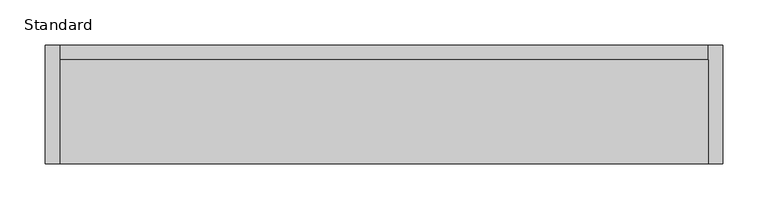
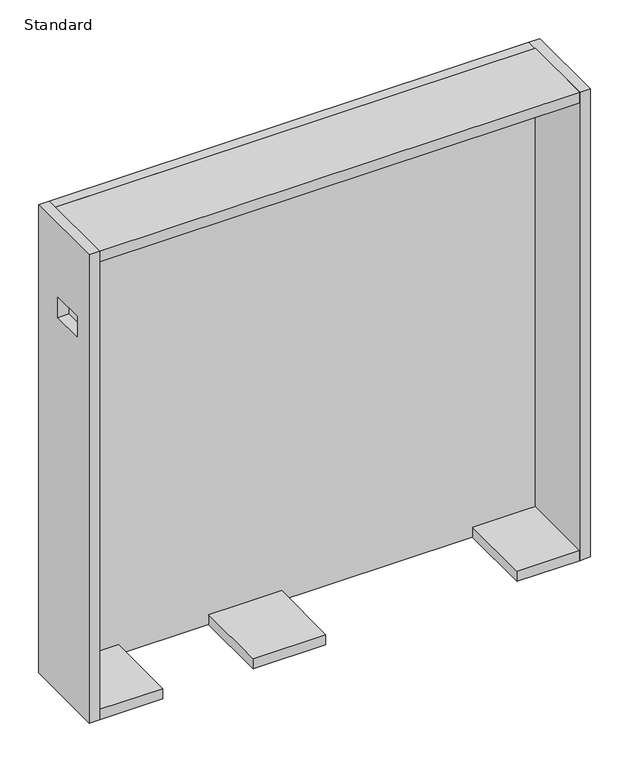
"""IFC4 building model written with IfcOpenShell, lengths in millimetres: furniture geometry, X_Partition-Compact Laminate-Duracube-Mirror Cabinet : Standard."""

from ifc_helpers import new_model, si_unit, point, frame, frame_2d, origin, origin_with_axes, place, context, project, spatial, polyline, circle_curve, ellipse_curve, trimmed, segment, composite_curve, outline, extrude, source, transform, mapped, element, save
from ifc_brep_helpers import plane_surface, revolved_surface, advanced_brep


def standard_5f91ae4e(model_context):
    return source(origin(), model_context, "Body", "SolidModel", [
        extrude(outline(composite_curve([segment(trimmed(circle_curve(frame_2d((369.7003264, -748.5)), 11.0), [point((358.7003264, -748.5))], [point((380.7003264, -748.5))], False, "CARTESIAN"), True, "CONTINUOUS"), segment(trimmed(circle_curve(frame_2d((369.7003264, -748.5)), 11.0), [point((380.7003264, -748.5))], [point((358.7003264, -748.5))], False, "CARTESIAN"), True, "CONTINUOUS")], self_intersect=False)), frame((0.0, 0.0, 8.0), z_axis=(0.0, 0.0, 1.0), x_axis=(1.0, 0.0, 0.0)), (0.0, 0.0, 1.0), 2.0),
        advanced_brep(
        [(369.7003264, -739.5, 7.0), (369.7003264, -757.5, 7.0), (369.7003264, -759.5, 8.0), (369.7003264, -737.5, 8.0), (369.7003264, -739.5, 8.0), (369.7003264, -757.5, 8.0)],
        [
            (0, 1, circle_curve(frame((369.7003264, -748.5, 7.0), z_axis=(0.0, 0.0, 1.0), x_axis=(0.0, -1.0, 0.0)), 9.0)),
            (1, 2, ellipse_curve(frame((369.7003264, -757.5, 8.0), z_axis=(-1.0, 0.0, 0.0), x_axis=(0.0, -1.0, 0.0)), 2.0, 1.0)),
            (2, 3, circle_curve(frame((369.7003264, -748.5, 8.0), z_axis=(0.0, 0.0, -1.0), x_axis=(0.0, -1.0, 0.0)), 11.0)),
            (3, 0, ellipse_curve(frame((369.7003264, -739.5, 8.0), z_axis=(-1.0, 0.0, 0.0), x_axis=(0.0, 1.0, 0.0)), 2.0, 1.0)),
            (1, 0, circle_curve(frame((369.7003264, -748.5, 7.0), z_axis=(0.0, 0.0, 1.0), x_axis=(0.0, -1.0, 0.0)), 9.0)),
            (3, 2, circle_curve(frame((369.7003264, -748.5, 8.0), z_axis=(0.0, 0.0, -1.0), x_axis=(0.0, -1.0, 0.0)), 11.0)),
            (4, 5, circle_curve(frame((369.7003264, -748.5, 8.0), z_axis=(0.0, 0.0, 1.0), x_axis=(0.0, -1.0, 0.0)), 9.0)),
            (5, 1),
            (0, 4),
            (5, 4, circle_curve(frame((369.7003264, -748.5, 8.0), z_axis=(0.0, 0.0, 1.0), x_axis=(0.0, -1.0, 0.0)), 9.0)),
            (2, 5),
            (4, 3),
        ],
        [
            revolved_surface(trimmed(ellipse_curve(frame((369.7003264, -757.5, 8.0), z_axis=(1.0, 0.0, 0.0), x_axis=(0.0, -1.0, 0.0)), 2.0, 1.0), [point((369.7003264, -759.5, 8.0))], [point((369.7003264, -757.5, 7.0))], True, "CARTESIAN"), (369.7003264, -748.5, 8.0), (0.0, 0.0, -1.0)),
            revolved_surface(polyline([(369.7003264, -757.5, 7.0), (369.7003264, -757.5, 8.0)]), (369.7003264, -748.5, 8.0), (0.0, 0.0, -1.0)),
            plane_surface(frame((369.7003264, -748.5, 8.0), z_axis=(0.0, 0.0, 1.0), x_axis=(0.0, -1.0, 0.0))),
        ],
        [
            (0, [[1, 2, 3, 4]]),
            (0, [[5, -4, 6, -2]]),
            (1, [[7, 8, -1, 9]]),
            (1, [[10, -9, -5, -8]]),
            (2, [[-3, 11, -7, 12]]),
            (2, [[-6, -12, -10, -11]]),
        ],
    ),
        extrude(outline(polyline([(370.7003264, -755.5), (368.7003264, -755.5), (368.7003264, -741.5), (370.7003264, -741.5), (370.7003264, -755.5)])), frame((0.0, 0.0, 1.0), z_axis=(0.0, 0.0, 1.0), x_axis=(1.0, 0.0, 0.0)), (0.0, 0.0, 1.0), 2.0),
        extrude(outline(composite_curve([segment(trimmed(circle_curve(frame_2d((369.7003264, -748.5)), 9.0), [point((360.7003264, -748.5))], [point((378.7003264, -748.5))], False, "CARTESIAN"), True, "CONTINUOUS"), segment(trimmed(circle_curve(frame_2d((369.7003264, -748.5)), 9.0), [point((378.7003264, -748.5))], [point((360.7003264, -748.5))], False, "CARTESIAN"), True, "CONTINUOUS")], self_intersect=False), holes=[polyline([(370.7003264, -755.5), (370.7003264, -741.5), (368.7003264, -741.5), (368.7003264, -755.5), (370.7003264, -755.5)])]), origin_with_axes(), (0.0, 0.0, 1.0), 8.0),
        extrude(outline(polyline([(-773.5, 750.0), (-642.5, 750.0), (-642.5, 10.0), (-773.5, 10.0), (-773.5, 750.0)]), holes=[polyline([(-742.5, 634.0), (-742.5, 602.0), (-692.5, 602.0), (-692.5, 634.0), (-742.5, 634.0)])]), frame((-330.2996736, 0.0, 0.0), z_axis=(1.0, 0.0, 0.0), x_axis=(0.0, 1.0, 0.0)), (0.0, 0.0, 1.0), 16.0),
        extrude(outline(polyline([(403.7003264, -658.5), (403.7003264, -773.5), (-314.2996736, -773.5), (-314.2996736, -658.5), (403.7003264, -658.5)])), frame((0.0, 0.0, 734.0), z_axis=(0.0, 0.0, 1.0), x_axis=(1.0, 0.0, 0.0)), (0.0, 0.0, 1.0), 16.0),
        extrude(outline(polyline([(419.7003264, -642.5), (419.7003264, -773.5), (403.7003264, -773.5), (403.7003264, -642.5), (419.7003264, -642.5)])), frame((0.0, 0.0, 10.0), z_axis=(0.0, 0.0, 1.0), x_axis=(1.0, 0.0, 0.0)), (0.0, 0.0, 1.0), 740.0),
        extrude(outline(polyline([(403.7003264, -642.5), (403.7003264, -658.5), (-314.2996736, -658.5), (-314.2996736, -642.5), (403.7003264, -642.5)])), frame((0.0, 0.0, 10.0), z_axis=(0.0, 0.0, 1.0), x_axis=(1.0, 0.0, 0.0)), (0.0, 0.0, 1.0), 740.0),
        extrude(outline(polyline([(403.7003264, -658.5), (403.7003264, -773.5), (309.7003264, -773.5), (309.7003264, -658.5), (403.7003264, -658.5)])), frame((0.0, 0.0, 10.0), z_axis=(0.0, 0.0, 1.0), x_axis=(1.0, 0.0, 0.0)), (0.0, 0.0, 1.0), 16.0),
        extrude(outline(polyline([(23.7003264, -658.5), (23.7003264, -773.5), (-85.2996736, -773.5), (-85.2996736, -658.5), (23.7003264, -658.5)])), frame((0.0, 0.0, 10.0), z_axis=(0.0, 0.0, 1.0), x_axis=(1.0, 0.0, 0.0)), (0.0, 0.0, 1.0), 16.0),
        extrude(outline(polyline([(-220.2996736, -658.5), (-220.2996736, -773.5), (-314.2996736, -773.5), (-314.2996736, -658.5), (-220.2996736, -658.5)])), frame((0.0, 0.0, 10.0), z_axis=(0.0, 0.0, 1.0), x_axis=(1.0, 0.0, 0.0)), (0.0, 0.0, 1.0), 16.0),
    ])


if __name__ == "__main__":
    model = new_model("IFC4")
    model_context = context("Model", 3, world=origin())
    ifc_project = project(units=[si_unit("LENGTHUNIT", "METRE", prefix="MILLI")], contexts=[model_context])
    site = spatial("IfcSite", under=ifc_project)
    building = spatial("IfcBuilding", under=site)
    placement = place(None, origin())
    standard_shape = standard_5f91ae4e(model_context)
    element("IfcFurniture", 1, ObjectType="X_Partition-Compact Laminate-Duracube-Mirror Cabinet : Standard", at=placement, inside=building, context=model_context, shape_type="MappedRepresentation", body=[
        mapped(standard_shape, transform((0.0, 0.0, 0.0), x_axis=(1.0, 0.0, 0.0), y_axis=(0.0, 1.0, 0.0), z_axis=(0.0, 0.0, 1.0))),
    ])
    save(model, "model.ifc")
